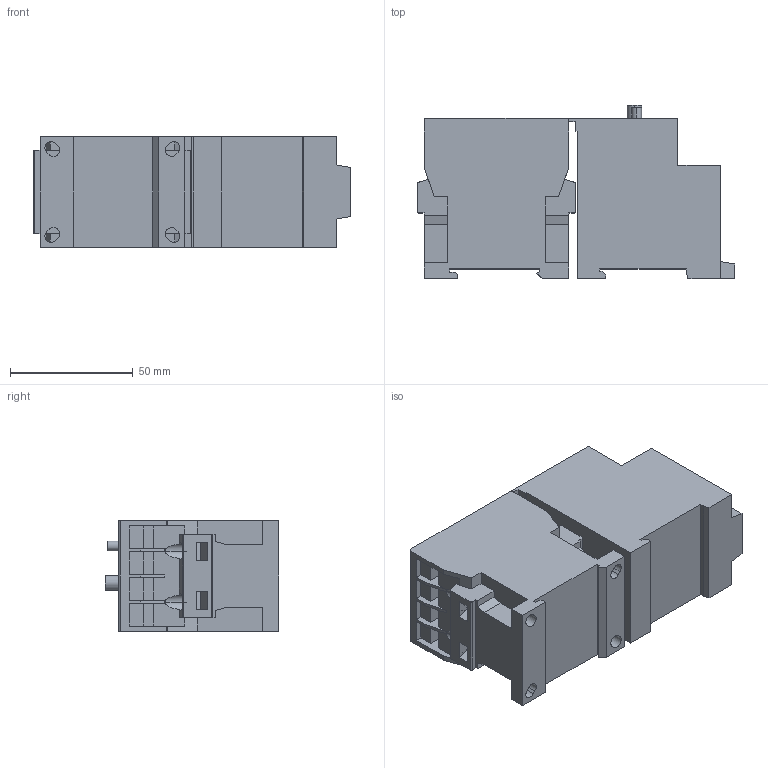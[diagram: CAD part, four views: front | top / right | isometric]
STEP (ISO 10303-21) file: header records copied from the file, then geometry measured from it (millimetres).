
FILE_DESCRIPTION (( 'STEP AP203' ), '1' );
FILE_NAME ('K3-10N + U3_32.STEP', '2014-03-10T08:25:44', ( '' ), ( '' ), 'SwSTEP 2.0', 'SolidWorks 2014', '' );
FILE_SCHEMA (( 'CONFIG_CONTROL_DESIGN' ));
Length unit declared in the file: millimetre
Products named in the file (3): K3-10N + U3_32; K3-07_22N; U3-32
Assembly tree (2 placements, depth 2):
  K3-10N + U3_32
    K3-07_22N
    U3-32
Bounding box: 129.2 x 70.7 x 45 mm (x, y, z)
Volume: 293727.1 mm3; surface area: 48697.5 mm2
Topology: 2 solids, 2 shells, 335 faces, 903 edges, 602 vertices
Faces by surface type: plane 279, cylinder 56
Entity records: 10750 total; most frequent: CARTESIAN_POINT 1945, ORIENTED_EDGE 1806, DIRECTION 1667, EDGE_CURVE 903, VECTOR 763, LINE 763, VERTEX_POINT 602, AXIS2_PLACEMENT_3D 452
